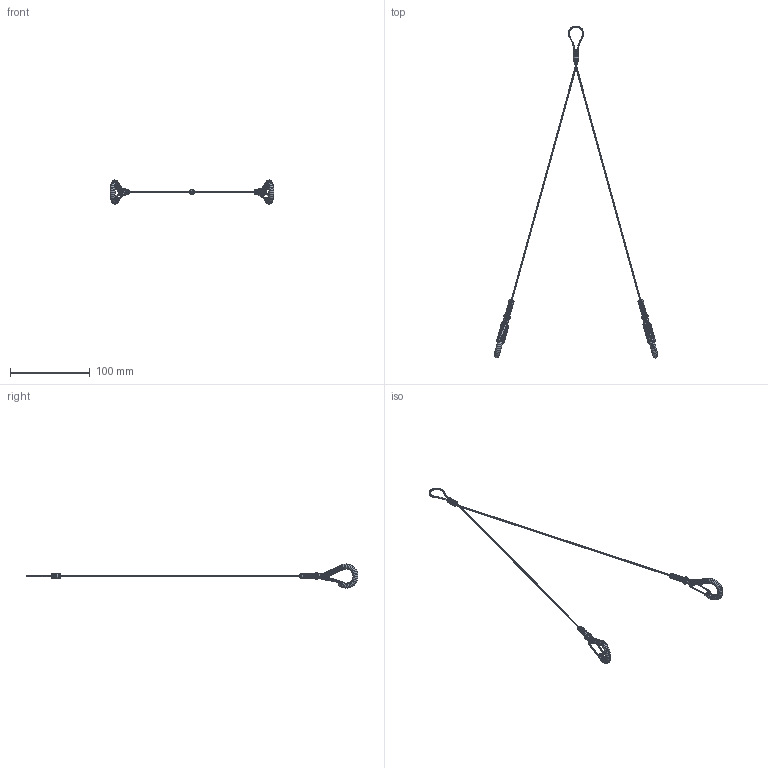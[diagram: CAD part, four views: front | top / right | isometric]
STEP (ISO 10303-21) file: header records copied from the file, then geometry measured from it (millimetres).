
FILE_DESCRIPTION((''),'2;1');
FILE_NAME('057848', '2025-07-29T07:31:03', (''), (''), 'ImageToStl.com STEP Converter','', '');
FILE_SCHEMA(('AUTOMOTIVE_DESIGN_CC2'));
Length unit declared in the file: metre
Products named in the file (1): product0
Bounding box: 205.7 x 416.62 x 30.26 mm (x, y, z)
Surface area: 9562.5 mm2 (no closed solid volume)
Topology: 0 solids, 13517 shells, 13517 faces, 40551 edges, 6765 vertices
Faces by surface type: plane 13517
Entity records: 310932 total; most frequent: DIRECTION 67587, ORIENTED_EDGE 40551, EDGE_CURVE 40551, LINE 40551, VECTOR 40551, AXIS2_PLACEMENT_3D 13518, FACE_SURFACE 13517, PLANE 13517
